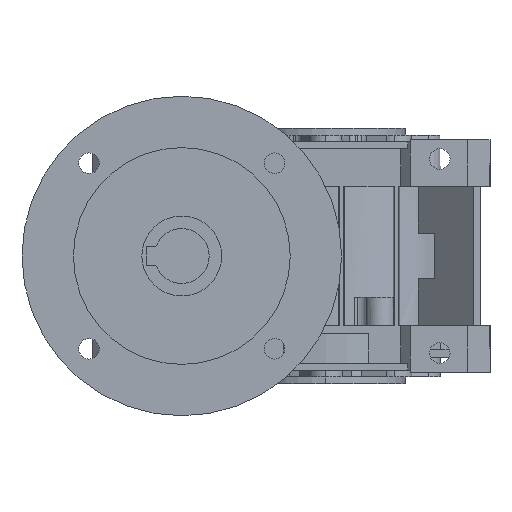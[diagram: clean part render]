
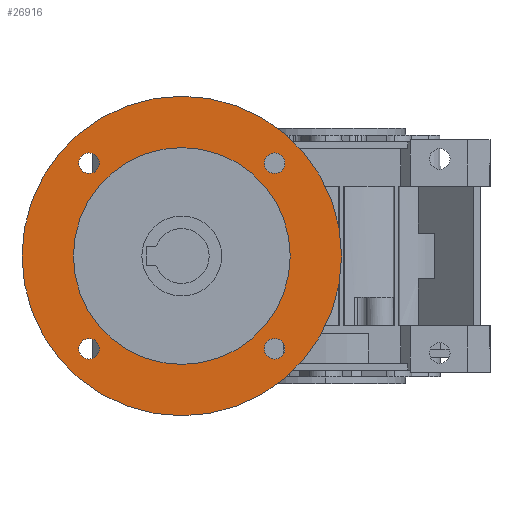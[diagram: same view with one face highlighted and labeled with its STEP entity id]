
A CAD part, left-side view. The second image highlights one B-rep face of the part: STEP entity #26916.
In plain terms, the highlighted planar face has unit normal (-1, 0, 0) as drawn and (1, 0, 0) by its records, which use the part's own axes.
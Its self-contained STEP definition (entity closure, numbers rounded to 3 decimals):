
#57 = CARTESIAN_POINT ( 'NONE',  ( 16., 0., 0. ) ) ;
#270 = EDGE_LOOP ( 'NONE', ( #7103, #2944 ) ) ;
#278 = AXIS2_PLACEMENT_3D ( 'NONE', #7672, #26458, #34561 ) ;
#339 = CIRCLE ( 'NONE', #6174, 4.5 ) ;
#887 = CARTESIAN_POINT ( 'NONE',  ( 16., 0., -47.5 ) ) ;
#1313 = EDGE_CURVE ( 'NONE', #16548, #5365, #34424, .T. ) ;
#2401 = DIRECTION ( 'NONE',  ( 0., 0., 1. ) ) ;
#2632 = AXIS2_PLACEMENT_3D ( 'NONE', #31770, #29319, #26723 ) ;
#2672 = AXIS2_PLACEMENT_3D ( 'NONE', #21757, #18700, #5483 ) ;
#2698 = EDGE_LOOP ( 'NONE', ( #21823, #17661 ) ) ;
#2723 = VERTEX_POINT ( 'NONE', #25430 ) ;
#2899 = DIRECTION ( 'NONE',  ( 0., -1., 0. ) ) ;
#2944 = ORIENTED_EDGE ( 'NONE', *, *, #34746, .F. ) ;
#3265 = EDGE_LOOP ( 'NONE', ( #32037, #27048 ) ) ;
#3338 = EDGE_LOOP ( 'NONE', ( #26980, #9417 ) ) ;
#3661 = EDGE_LOOP ( 'NONE', ( #23198, #20509 ) ) ;
#3724 = CARTESIAN_POINT ( 'NONE',  ( 16., 40.659, -40.659 ) ) ;
#4105 = EDGE_CURVE ( 'NONE', #20131, #32991, #9465, .T. ) ;
#4462 = DIRECTION ( 'NONE',  ( 0., 0., 1. ) ) ;
#5365 = VERTEX_POINT ( 'NONE', #887 ) ;
#5375 = VERTEX_POINT ( 'NONE', #6302 ) ;
#5483 = DIRECTION ( 'NONE',  ( 0., 0., 1. ) ) ;
#6004 = VERTEX_POINT ( 'NONE', #30801 ) ;
#6174 = AXIS2_PLACEMENT_3D ( 'NONE', #3724, #6436, #16958 ) ;
#6182 = CARTESIAN_POINT ( 'NONE',  ( 16., 40.659, 40.659 ) ) ;
#6216 = EDGE_CURVE ( 'NONE', #34697, #20241, #339, .T. ) ;
#6302 = CARTESIAN_POINT ( 'NONE',  ( 16., 40.659, 45.159 ) ) ;
#6436 = DIRECTION ( 'NONE',  ( 1., 0., 0. ) ) ;
#7103 = ORIENTED_EDGE ( 'NONE', *, *, #24272, .F. ) ;
#7404 = AXIS2_PLACEMENT_3D ( 'NONE', #6182, #22360, #24936 ) ;
#7672 = CARTESIAN_POINT ( 'NONE',  ( 16., 0., 0. ) ) ;
#7698 = FACE_BOUND ( 'NONE', #270, .T. ) ;
#7839 = DIRECTION ( 'NONE',  ( 1., 0., 0. ) ) ;
#8266 = AXIS2_PLACEMENT_3D ( 'NONE', #33949, #31023, #23010 ) ;
#8434 = CIRCLE ( 'NONE', #22816, 4.5 ) ;
#8891 = CARTESIAN_POINT ( 'NONE',  ( 16., 40.659, -40.659 ) ) ;
#8944 = AXIS2_PLACEMENT_3D ( 'NONE', #57, #10471, #2401 ) ;
#9101 = VERTEX_POINT ( 'NONE', #14981 ) ;
#9399 = DIRECTION ( 'NONE',  ( 0., -1., 0. ) ) ;
#9411 = CIRCLE ( 'NONE', #2672, 70. ) ;
#9417 = ORIENTED_EDGE ( 'NONE', *, *, #4105, .F. ) ;
#9465 = CIRCLE ( 'NONE', #10794, 4.5 ) ;
#9480 = EDGE_CURVE ( 'NONE', #20241, #34697, #26612, .T. ) ;
#9502 = CIRCLE ( 'NONE', #7404, 4.5 ) ;
#9596 = DIRECTION ( 'NONE',  ( -1., 0., 0. ) ) ;
#9736 = DIRECTION ( 'NONE',  ( 1., 0., 0. ) ) ;
#9935 = DIRECTION ( 'NONE',  ( 1., 0., 0. ) ) ;
#10471 = DIRECTION ( 'NONE',  ( -1., 0., 0. ) ) ;
#10514 = EDGE_LOOP ( 'NONE', ( #29917, #30963 ) ) ;
#10794 = AXIS2_PLACEMENT_3D ( 'NONE', #24025, #7839, #2899 ) ;
#11850 = CARTESIAN_POINT ( 'NONE',  ( 16., 0., 47.5 ) ) ;
#12200 = VERTEX_POINT ( 'NONE', #14989 ) ;
#12298 = AXIS2_PLACEMENT_3D ( 'NONE', #8891, #24845, #32970 ) ;
#12573 = DIRECTION ( 'NONE',  ( 0., 0., 1. ) ) ;
#14058 = AXIS2_PLACEMENT_3D ( 'NONE', #23158, #15034, #12573 ) ;
#14806 = EDGE_CURVE ( 'NONE', #9101, #6004, #9411, .T. ) ;
#14974 = PLANE ( 'NONE',  #29691 ) ;
#14981 = CARTESIAN_POINT ( 'NONE',  ( 16., 0., -70. ) ) ;
#14989 = CARTESIAN_POINT ( 'NONE',  ( 16., -40.659, 36.159 ) ) ;
#15034 = DIRECTION ( 'NONE',  ( 1., 0., 0. ) ) ;
#15225 = FACE_OUTER_BOUND ( 'NONE', #3661, .T. ) ;
#15739 = CARTESIAN_POINT ( 'NONE',  ( 16., 40.659, -36.159 ) ) ;
#16548 = VERTEX_POINT ( 'NONE', #11850 ) ;
#16710 = CARTESIAN_POINT ( 'NONE',  ( 16., 40.659, -45.159 ) ) ;
#16958 = DIRECTION ( 'NONE',  ( 0., 0., -1. ) ) ;
#17480 = CARTESIAN_POINT ( 'NONE',  ( 16., -40.659, -40.659 ) ) ;
#17661 = ORIENTED_EDGE ( 'NONE', *, *, #9480, .F. ) ;
#17918 = DIRECTION ( 'NONE',  ( 0., 0., 1. ) ) ;
#17945 = CIRCLE ( 'NONE', #14058, 4.5 ) ;
#18040 = CARTESIAN_POINT ( 'NONE',  ( 16., 70., 0. ) ) ;
#18700 = DIRECTION ( 'NONE',  ( -1., 0., 0. ) ) ;
#20131 = VERTEX_POINT ( 'NONE', #31281 ) ;
#20241 = VERTEX_POINT ( 'NONE', #15739 ) ;
#20509 = ORIENTED_EDGE ( 'NONE', *, *, #14806, .F. ) ;
#21123 = FACE_BOUND ( 'NONE', #3265, .T. ) ;
#21757 = CARTESIAN_POINT ( 'NONE',  ( 16., 0., 0. ) ) ;
#21823 = ORIENTED_EDGE ( 'NONE', *, *, #6216, .F. ) ;
#21906 = CARTESIAN_POINT ( 'NONE',  ( 16., -40.659, -45.159 ) ) ;
#22360 = DIRECTION ( 'NONE',  ( 1., 0., 0. ) ) ;
#22403 = FACE_BOUND ( 'NONE', #2698, .T. ) ;
#22445 = EDGE_CURVE ( 'NONE', #32991, #20131, #8434, .T. ) ;
#22816 = AXIS2_PLACEMENT_3D ( 'NONE', #17480, #9736, #9399 ) ;
#23010 = DIRECTION ( 'NONE',  ( 0., 0., 1. ) ) ;
#23158 = CARTESIAN_POINT ( 'NONE',  ( 16., -40.659, 40.659 ) ) ;
#23198 = ORIENTED_EDGE ( 'NONE', *, *, #25307, .F. ) ;
#23237 = FACE_BOUND ( 'NONE', #3338, .T. ) ;
#24025 = CARTESIAN_POINT ( 'NONE',  ( 16., -40.659, -40.659 ) ) ;
#24272 = EDGE_CURVE ( 'NONE', #24766, #5375, #31018, .T. ) ;
#24595 = EDGE_CURVE ( 'NONE', #2723, #12200, #17945, .T. ) ;
#24766 = VERTEX_POINT ( 'NONE', #26811 ) ;
#24845 = DIRECTION ( 'NONE',  ( 1., 0., 0. ) ) ;
#24936 = DIRECTION ( 'NONE',  ( 0., 1., 0. ) ) ;
#24953 = EDGE_CURVE ( 'NONE', #5365, #16548, #29054, .T. ) ;
#25307 = EDGE_CURVE ( 'NONE', #6004, #9101, #27131, .T. ) ;
#25430 = CARTESIAN_POINT ( 'NONE',  ( 16., -40.659, 45.159 ) ) ;
#26458 = DIRECTION ( 'NONE',  ( -1., 0., 0. ) ) ;
#26612 = CIRCLE ( 'NONE', #12298, 4.5 ) ;
#26723 = DIRECTION ( 'NONE',  ( 0., 1., 0. ) ) ;
#26811 = CARTESIAN_POINT ( 'NONE',  ( 16., 40.659, 36.159 ) ) ;
#26916 = ADVANCED_FACE ( 'NONE', ( #7698, #21123, #23237, #22403, #15225, #30384 ), #14974, .F. ) ;
#26940 = EDGE_CURVE ( 'NONE', #12200, #2723, #29549, .T. ) ;
#26980 = ORIENTED_EDGE ( 'NONE', *, *, #22445, .F. ) ;
#27048 = ORIENTED_EDGE ( 'NONE', *, *, #24595, .F. ) ;
#27131 = CIRCLE ( 'NONE', #8266, 70. ) ;
#29054 = CIRCLE ( 'NONE', #8944, 47.5 ) ;
#29319 = DIRECTION ( 'NONE',  ( 1., 0., 0. ) ) ;
#29549 = CIRCLE ( 'NONE', #31268, 4.5 ) ;
#29691 = AXIS2_PLACEMENT_3D ( 'NONE', #18040, #9596, #17918 ) ;
#29917 = ORIENTED_EDGE ( 'NONE', *, *, #1313, .T. ) ;
#30384 = FACE_BOUND ( 'NONE', #10514, .T. ) ;
#30801 = CARTESIAN_POINT ( 'NONE',  ( 16., 0., 70. ) ) ;
#30963 = ORIENTED_EDGE ( 'NONE', *, *, #24953, .T. ) ;
#30988 = CARTESIAN_POINT ( 'NONE',  ( 16., -40.659, 40.659 ) ) ;
#31018 = CIRCLE ( 'NONE', #2632, 4.5 ) ;
#31023 = DIRECTION ( 'NONE',  ( -1., 0., 0. ) ) ;
#31268 = AXIS2_PLACEMENT_3D ( 'NONE', #30988, #9935, #4462 ) ;
#31281 = CARTESIAN_POINT ( 'NONE',  ( 16., -40.659, -36.159 ) ) ;
#31770 = CARTESIAN_POINT ( 'NONE',  ( 16., 40.659, 40.659 ) ) ;
#32037 = ORIENTED_EDGE ( 'NONE', *, *, #26940, .F. ) ;
#32970 = DIRECTION ( 'NONE',  ( 0., 0., -1. ) ) ;
#32991 = VERTEX_POINT ( 'NONE', #21906 ) ;
#33949 = CARTESIAN_POINT ( 'NONE',  ( 16., 0., 0. ) ) ;
#34424 = CIRCLE ( 'NONE', #278, 47.5 ) ;
#34561 = DIRECTION ( 'NONE',  ( 0., 0., 1. ) ) ;
#34697 = VERTEX_POINT ( 'NONE', #16710 ) ;
#34746 = EDGE_CURVE ( 'NONE', #5375, #24766, #9502, .T. ) ;
